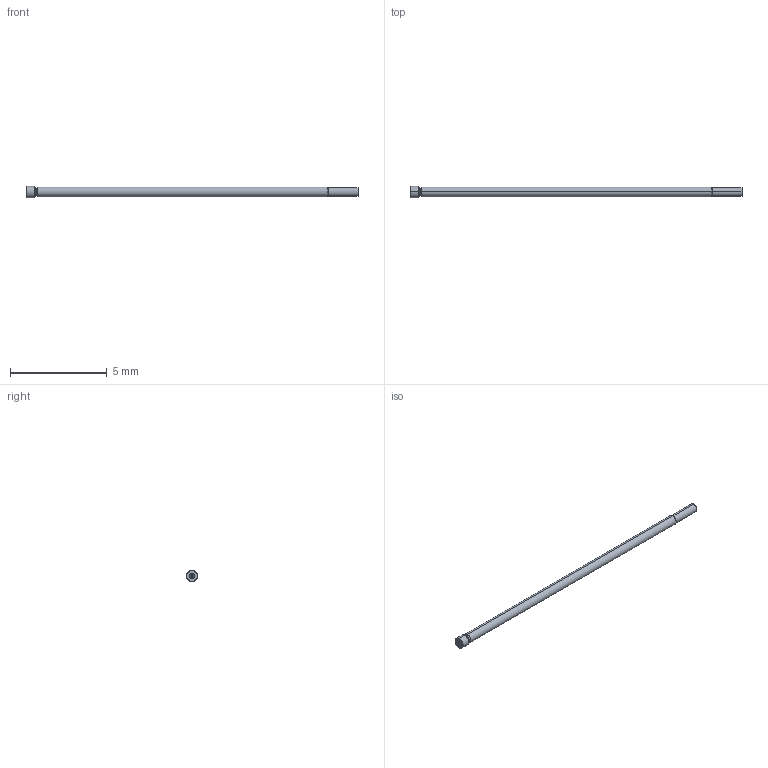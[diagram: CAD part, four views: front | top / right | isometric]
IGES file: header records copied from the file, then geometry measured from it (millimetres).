
Start section: SolidWorks IGES file using analytic representation for surfaces
Global section: file name: Z:\probe solid model mockups\Solidworks models\MEP-20 IGS files\MEP-20U Full.IGS; native system: SolidWorks 2006 by SolidWorks Corporation; preprocessor: SolidWorks 2006 by SolidWorks Corporation; author: tsakatani; date: 071219.112815; units: inch
Bounding box: 17.14 x 0.58 x 0.58 mm (x, y, z)
Surface area: 28.6 mm2 (no closed solid volume)
Topology: 0 solids, 0 shells, 49 faces, 263 edges, 263 vertices
Faces by surface type: bspline 35, revolution 14
